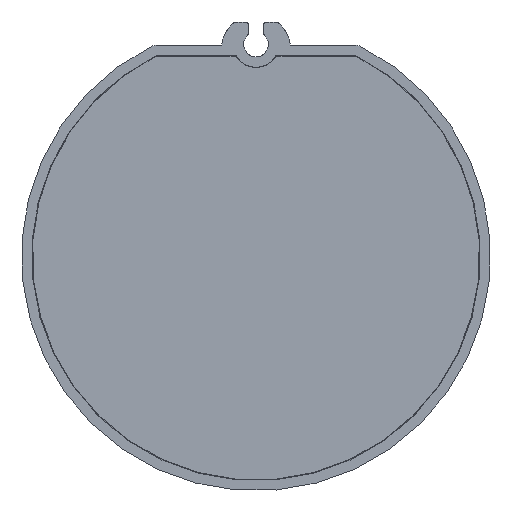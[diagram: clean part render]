
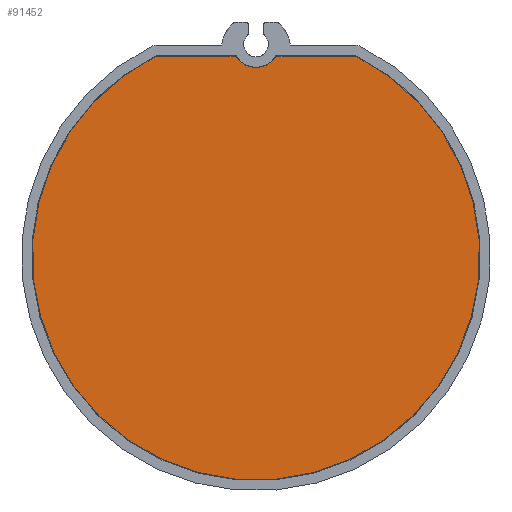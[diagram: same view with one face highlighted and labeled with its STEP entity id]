
A CAD part, front view. The second image highlights one B-rep face of the part: STEP entity #91452.
In plain terms, the highlighted planar face has unit normal (0, -1, 0).
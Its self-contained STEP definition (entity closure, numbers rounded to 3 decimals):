
#58443=CARTESIAN_POINT('',(0.,0.,27.1));
#58444=DIRECTION('',(0.,1.,0.));
#58445=DIRECTION('',(0.865,0.,-0.502));
#58446=AXIS2_PLACEMENT_3D('',#58443,#58444,#58445);
#58451=CARTESIAN_POINT('',(-2.551,0.,
25.619));
#58459=DIRECTION('',(-1.,0.,0.));
#58460=VECTOR('',#58459,10.205);
#58461=CARTESIAN_POINT('',(-2.551,0.,25.619));
#58462=LINE('',#58461,#58460);
#85866=CARTESIAN_POINT('',(0.,0.,0.));
#85867=DIRECTION('',(0.,-1.,0.));
#85868=DIRECTION('',(-0.446,0.,0.895));
#85869=AXIS2_PLACEMENT_3D('',#85866,#85867,#85868);
#85882=DIRECTION('',(-1.,0.,0.));
#85883=VECTOR('',#85882,10.205);
#85884=CARTESIAN_POINT('',(12.756,0.,25.619));
#85885=LINE('',#85884,#85883);
#85911=CARTESIAN_POINT('',(2.551,0.,25.619));
#86376=CARTESIAN_POINT('',(-12.756,0.,
25.619));
#86377=CARTESIAN_POINT('',(12.756,0.,
25.619));
#86378=VERTEX_POINT('',#86376);
#86379=VERTEX_POINT('',#86377);
#86390=VERTEX_POINT('',#58451);
#86392=VERTEX_POINT('',#85911);
#91437=CARTESIAN_POINT('',(0.,0.,0.));
#91438=DIRECTION('',(0.,1.,0.));
#91439=DIRECTION('',(0.,0.,-1.));
#91440=AXIS2_PLACEMENT_3D('',#91437,#91438,#91439);
#91441=PLANE('',#91440);
#91443=ORIENTED_EDGE('',*,*,#91442,.F.);
#91445=ORIENTED_EDGE('',*,*,#91444,.F.);
#91447=ORIENTED_EDGE('',*,*,#91446,.F.);
#91449=ORIENTED_EDGE('',*,*,#91448,.F.);
#91450=EDGE_LOOP('',(#91443,#91445,#91447,#91449));
#91451=FACE_OUTER_BOUND('',#91450,.F.);
#91452=ADVANCED_FACE('',(#91451),#91441,.F.);
#58447=CIRCLE('',#58446,2.95);
#85870=CIRCLE('',#85869,28.619);
#91442=EDGE_CURVE('',#86390,#86378,#58462,.T.);
#91444=EDGE_CURVE('',#86392,#86390,#58447,.T.);
#91446=EDGE_CURVE('',#86379,#86392,#85885,.T.);
#91448=EDGE_CURVE('',#86378,#86379,#85870,.T.);
